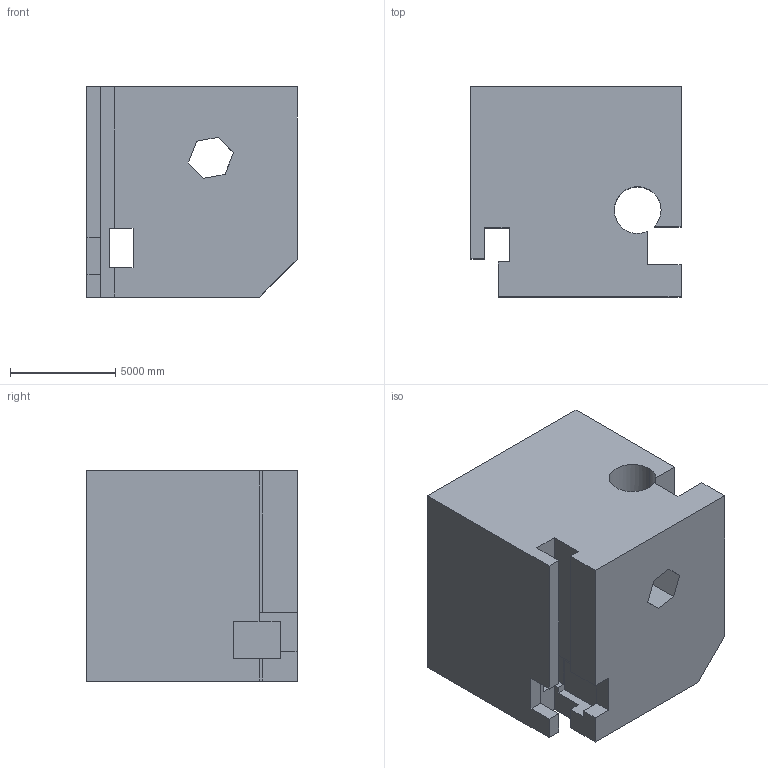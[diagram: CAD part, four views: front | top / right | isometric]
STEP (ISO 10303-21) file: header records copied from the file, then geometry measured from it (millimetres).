
FILE_DESCRIPTION (( 'STEP AP203' ), '1' );
FILE_NAME ('1712.STEP', '2022-08-19T11:58:15', ( 'user' ), ( '' ), 'SwSTEP 2.0', 'SolidWorks 2021', '' );
FILE_SCHEMA (( 'CONFIG_CONTROL_DESIGN' ));
Length unit declared in the file: centimetre
Products named in the file (1): 1712
Bounding box: 10000 x 10000 x 10000 mm (x, y, z)
Volume: 828774703249.4 mm3; surface area: 786579712.7 mm2
Topology: 1 solids, 1 shells, 44 faces, 135 edges, 90 vertices
Faces by surface type: plane 41, cylinder 3
Entity records: 1573 total; most frequent: CARTESIAN_POINT 291, ORIENTED_EDGE 270, DIRECTION 223, EDGE_CURVE 135, LINE 123, VECTOR 123, VERTEX_POINT 90, AXIS2_PLACEMENT_3D 50
